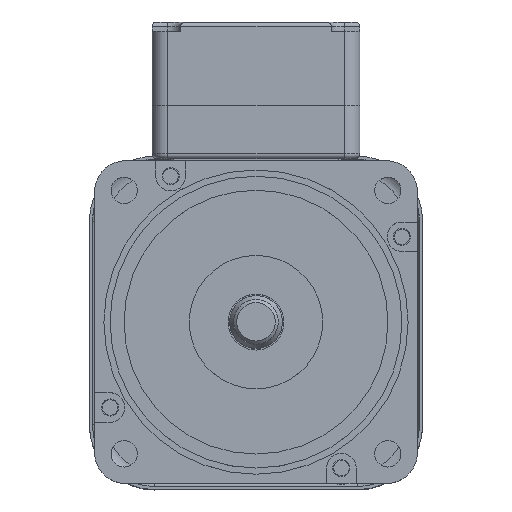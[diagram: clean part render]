
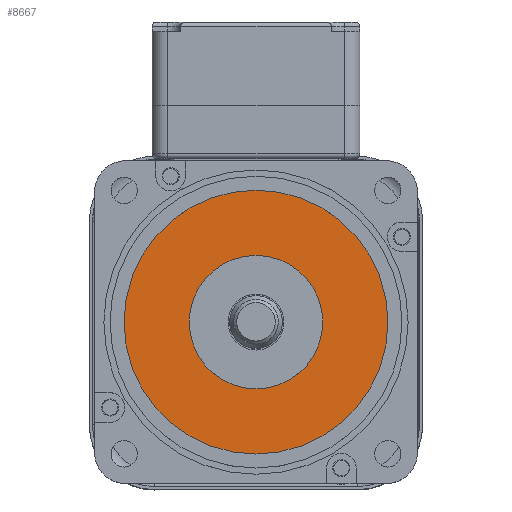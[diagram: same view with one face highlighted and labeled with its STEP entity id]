
A CAD part, top view. The second image highlights one B-rep face of the part: STEP entity #8667.
In plain terms, the highlighted planar face has unit normal (0, 0, 1) as drawn and (-1, 0, 0) by its records, which use the part's own axes.
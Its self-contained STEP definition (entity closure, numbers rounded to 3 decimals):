
#1941 = ORIENTED_EDGE ( 'NONE', *, *, #26659, .T. ) ;
#1942 = ORIENTED_EDGE ( 'NONE', *, *, #26640, .F. ) ;
#3940 = EDGE_LOOP ( 'NONE', ( #1942 ) ) ;
#6909 = EDGE_LOOP ( 'NONE', ( #1941 ) ) ;
#8667 = ADVANCED_FACE ( 'NONE', ( #24844, #24849 ), #25795, .T. ) ;
#22788 = AXIS2_PLACEMENT_3D ( 'NONE', #25793, #25797, #25798 ) ;
#24844 = FACE_BOUND ( 'NONE', #3940, .T. ) ;
#24849 = FACE_OUTER_BOUND ( 'NONE', #6909, .T. ) ;
#25793 = CARTESIAN_POINT ( 'NONE',  ( 4., 0., 0. ) ) ;
#25795 = PLANE ( 'NONE',  #22788 ) ;
#25797 = DIRECTION ( 'NONE',  ( -1., 0., 0. ) ) ;
#25798 = DIRECTION ( 'NONE',  ( 0., 0., 1. ) ) ;
#26640 = EDGE_CURVE ( 'NONE', #28381, #28381, #28119, .T. ) ;
#26659 = EDGE_CURVE ( 'NONE', #28388, #28388, #28146, .T. ) ;
#28119 = CIRCLE ( 'NONE', #28911, 21.5 ) ;
#28146 = CIRCLE ( 'NONE', #28922, 42.5 ) ;
#28381 = VERTEX_POINT ( 'NONE', #29761 ) ;
#28388 = VERTEX_POINT ( 'NONE', #29768 ) ;
#28911 = AXIS2_PLACEMENT_3D ( 'NONE', #29389, #29390, #29391 ) ;
#28922 = AXIS2_PLACEMENT_3D ( 'NONE', #29440, #29441, #29442 ) ;
#29389 = CARTESIAN_POINT ( 'NONE',  ( 4., 0., 0. ) ) ;
#29390 = DIRECTION ( 'NONE',  ( -1., 0., 0. ) ) ;
#29391 = DIRECTION ( 'NONE',  ( 0., 0., 1. ) ) ;
#29440 = CARTESIAN_POINT ( 'NONE',  ( 4., 0., 0. ) ) ;
#29441 = DIRECTION ( 'NONE',  ( -1., 0., 0. ) ) ;
#29442 = DIRECTION ( 'NONE',  ( 0., 0., 1. ) ) ;
#29761 = CARTESIAN_POINT ( 'NONE',  ( 4., 0., 21.5 ) ) ;
#29768 = CARTESIAN_POINT ( 'NONE',  ( 4., 0., 42.5 ) ) ;
